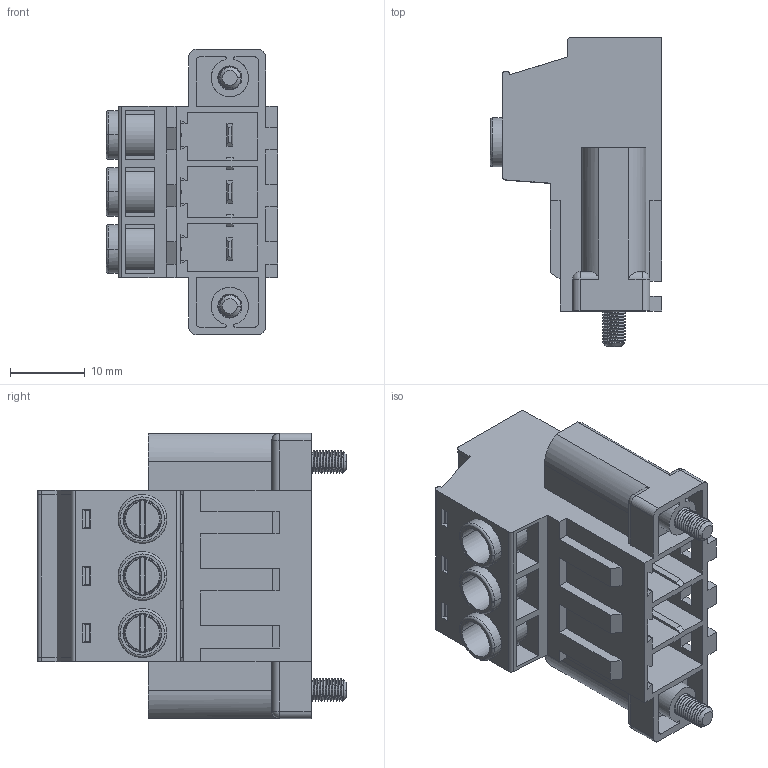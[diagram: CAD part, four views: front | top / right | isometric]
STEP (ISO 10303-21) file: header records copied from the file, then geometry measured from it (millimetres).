
FILE_DESCRIPTION((''),'2;1');
FILE_NAME('3PIN_SW0001','2019-05-14T',('zhenbing.lai'),(''),'CREO PARAMETRIC BY PTC INC, 2016260','CREO PARAMETRIC BY PTC INC, 2016260','');
FILE_SCHEMA(('CONFIG_CONTROL_DESIGN'));
Products named in the file (1): 3PIN_SW0001
Bounding box: 22.9 x 41.25 x 38.1 mm (x, y, z)
Volume: 11782.9 mm3; surface area: 10067.9 mm2
Topology: 1 solids, 4 shells, 729 faces, 2048 edges, 1345 vertices
Faces by surface type: plane 385, cylinder 227, cone 45, bspline 39, torus 29, sphere 4
Entity records: 44653 total; most frequent: CARTESIAN_POINT 26561, ORIENTED_EDGE 4080, DIRECTION 3292, EDGE_CURVE 2040, VERTEX_POINT 1345, VECTOR 1192, LINE 1192, AXIS2_PLACEMENT_3D 1050
